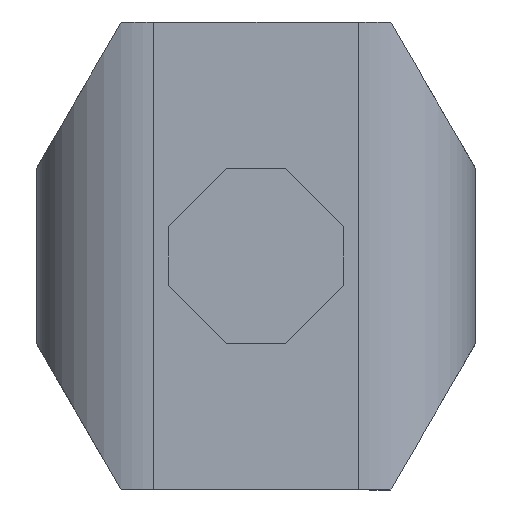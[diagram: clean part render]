
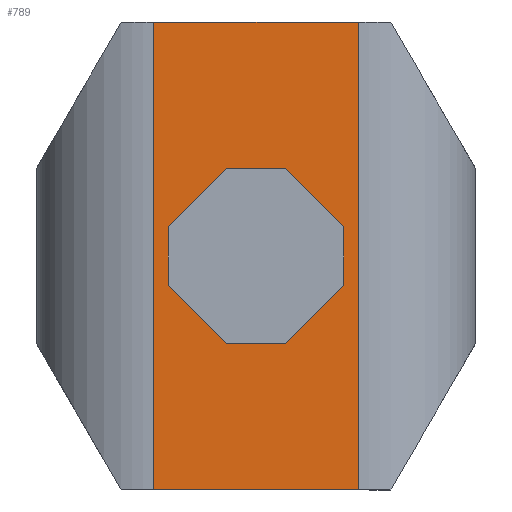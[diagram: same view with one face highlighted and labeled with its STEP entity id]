
A CAD part, left-side view. The second image highlights one B-rep face of the part: STEP entity #789.
In plain terms, the highlighted planar face has unit normal (-1, 0, 0).
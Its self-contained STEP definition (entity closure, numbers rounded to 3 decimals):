
#70=CARTESIAN_POINT('Vertex',(0.,3.,7.)) ;
#73=CARTESIAN_POINT('Line Origine',(0.,2.,6.)) ;
#77=CARTESIAN_POINT('Vertex',(0.,1.,5.)) ;
#164=CARTESIAN_POINT('Vertex',(0.,3.,9.)) ;
#167=CARTESIAN_POINT('Line Origine',(0.,3.,8.)) ;
#184=CARTESIAN_POINT('Line Origine',(0.,0.,5.)) ;
#188=CARTESIAN_POINT('Vertex',(0.,-1.,5.)) ;
#212=CARTESIAN_POINT('Vertex',(0.,1.,11.)) ;
#215=CARTESIAN_POINT('Line Origine',(0.,2.,10.)) ;
#236=CARTESIAN_POINT('Vertex',(0.,-1.,11.)) ;
#239=CARTESIAN_POINT('Line Origine',(0.,0.,11.)) ;
#260=CARTESIAN_POINT('Vertex',(0.,-3.,9.)) ;
#263=CARTESIAN_POINT('Line Origine',(0.,-2.,10.)) ;
#284=CARTESIAN_POINT('Vertex',(0.,-3.,7.)) ;
#287=CARTESIAN_POINT('Line Origine',(0.,-3.,8.)) ;
#304=CARTESIAN_POINT('Line Origine',(0.,-2.,6.)) ;
#616=CARTESIAN_POINT('Vertex',(0.,-3.5,0.)) ;
#623=CARTESIAN_POINT('Vertex',(0.,-3.5,16.)) ;
#626=CARTESIAN_POINT('Line Origine',(0.,-3.5,8.)) ;
#749=CARTESIAN_POINT('Axis2P3D Location',(0.,0.,5.)) ;
#754=CARTESIAN_POINT('Line Origine',(0.,3.5,8.)) ;
#758=CARTESIAN_POINT('Vertex',(0.,3.5,0.)) ;
#760=CARTESIAN_POINT('Vertex',(0.,3.5,16.)) ;
#763=CARTESIAN_POINT('Line Origine',(0.,0.,0.)) ;
#768=CARTESIAN_POINT('Line Origine',(0.,0.,16.)) ;
#74=DIRECTION('Vector Direction',(0.,-0.707,-0.707)) ;
#168=DIRECTION('Vector Direction',(0.,0.,-1.)) ;
#185=DIRECTION('Vector Direction',(0.,-1.,0.)) ;
#216=DIRECTION('Vector Direction',(0.,0.707,-0.707)) ;
#240=DIRECTION('Vector Direction',(0.,1.,0.)) ;
#264=DIRECTION('Vector Direction',(0.,0.707,0.707)) ;
#288=DIRECTION('Vector Direction',(0.,0.,1.)) ;
#305=DIRECTION('Vector Direction',(0.,-0.707,0.707)) ;
#627=DIRECTION('Vector Direction',(0.,0.,1.)) ;
#750=DIRECTION('Axis2P3D Direction',(1.,0.,0.)) ;
#751=DIRECTION('Axis2P3D XDirection',(0.,1.,0.)) ;
#755=DIRECTION('Vector Direction',(0.,0.,-1.)) ;
#764=DIRECTION('Vector Direction',(0.,-1.,0.)) ;
#769=DIRECTION('Vector Direction',(0.,1.,0.)) ;
#752=AXIS2_PLACEMENT_3D('Plane Axis2P3D',#749,#750,#751) ;
#774=ORIENTED_EDGE('',*,*,#762,.F.) ;
#775=ORIENTED_EDGE('',*,*,#767,.F.) ;
#776=ORIENTED_EDGE('',*,*,#630,.F.) ;
#777=ORIENTED_EDGE('',*,*,#772,.F.) ;
#780=ORIENTED_EDGE('',*,*,#190,.T.) ;
#781=ORIENTED_EDGE('',*,*,#79,.T.) ;
#782=ORIENTED_EDGE('',*,*,#171,.T.) ;
#783=ORIENTED_EDGE('',*,*,#219,.T.) ;
#784=ORIENTED_EDGE('',*,*,#243,.T.) ;
#785=ORIENTED_EDGE('',*,*,#267,.T.) ;
#786=ORIENTED_EDGE('',*,*,#291,.T.) ;
#787=ORIENTED_EDGE('',*,*,#308,.T.) ;
#788=FACE_BOUND('',#779,.T.) ;
#75=VECTOR('Line Direction',#74,1.) ;
#169=VECTOR('Line Direction',#168,1.) ;
#186=VECTOR('Line Direction',#185,1.) ;
#217=VECTOR('Line Direction',#216,1.) ;
#241=VECTOR('Line Direction',#240,1.) ;
#265=VECTOR('Line Direction',#264,1.) ;
#289=VECTOR('Line Direction',#288,1.) ;
#306=VECTOR('Line Direction',#305,1.) ;
#628=VECTOR('Line Direction',#627,1.) ;
#756=VECTOR('Line Direction',#755,1.) ;
#765=VECTOR('Line Direction',#764,1.) ;
#770=VECTOR('Line Direction',#769,1.) ;
#789=ADVANCED_FACE('stl',(#778,#788),#753,.F.) ;
#79=EDGE_CURVE('',#78,#71,#76,.F.) ;
#171=EDGE_CURVE('',#71,#165,#170,.F.) ;
#190=EDGE_CURVE('',#189,#78,#187,.F.) ;
#219=EDGE_CURVE('',#165,#213,#218,.F.) ;
#243=EDGE_CURVE('',#213,#237,#242,.F.) ;
#267=EDGE_CURVE('',#237,#261,#266,.F.) ;
#291=EDGE_CURVE('',#261,#285,#290,.F.) ;
#308=EDGE_CURVE('',#285,#189,#307,.F.) ;
#630=EDGE_CURVE('',#624,#617,#629,.F.) ;
#762=EDGE_CURVE('',#759,#761,#757,.F.) ;
#767=EDGE_CURVE('',#617,#759,#766,.F.) ;
#772=EDGE_CURVE('',#761,#624,#771,.F.) ;
#773=EDGE_LOOP('',(#774,#775,#776,#777)) ;
#779=EDGE_LOOP('',(#780,#781,#782,#783,#784,#785,#786,#787)) ;
#778=FACE_OUTER_BOUND('',#773,.T.) ;
#76=LINE('Line',#73,#75) ;
#170=LINE('Line',#167,#169) ;
#187=LINE('Line',#184,#186) ;
#218=LINE('Line',#215,#217) ;
#242=LINE('Line',#239,#241) ;
#266=LINE('Line',#263,#265) ;
#290=LINE('Line',#287,#289) ;
#307=LINE('Line',#304,#306) ;
#629=LINE('Line',#626,#628) ;
#757=LINE('Line',#754,#756) ;
#766=LINE('Line',#763,#765) ;
#771=LINE('Line',#768,#770) ;
#753=PLANE('',#752) ;
#71=VERTEX_POINT('',#70) ;
#78=VERTEX_POINT('',#77) ;
#165=VERTEX_POINT('',#164) ;
#189=VERTEX_POINT('',#188) ;
#213=VERTEX_POINT('',#212) ;
#237=VERTEX_POINT('',#236) ;
#261=VERTEX_POINT('',#260) ;
#285=VERTEX_POINT('',#284) ;
#617=VERTEX_POINT('',#616) ;
#624=VERTEX_POINT('',#623) ;
#759=VERTEX_POINT('',#758) ;
#761=VERTEX_POINT('',#760) ;
